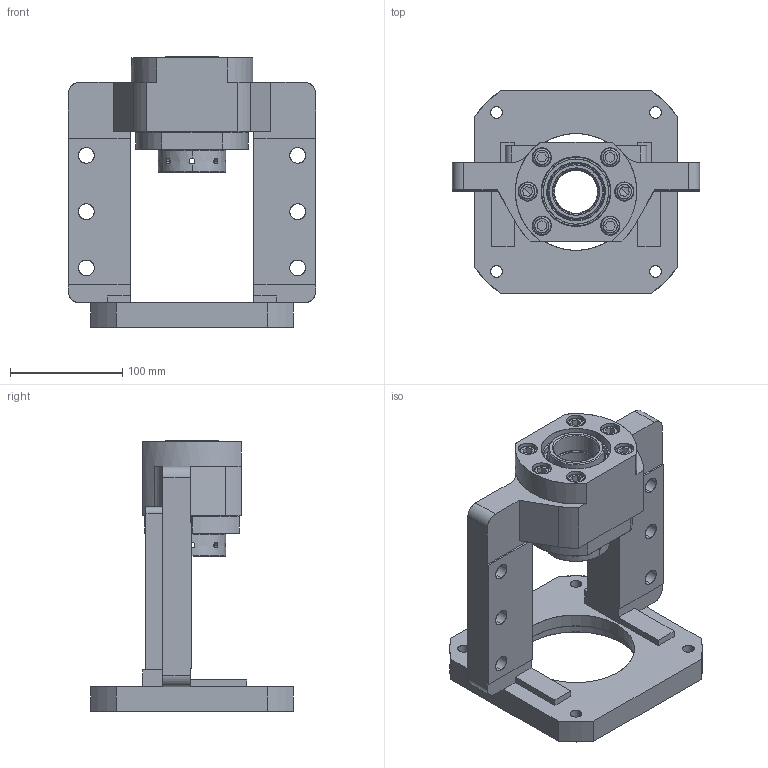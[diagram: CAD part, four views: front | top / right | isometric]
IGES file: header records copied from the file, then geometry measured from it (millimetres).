
Start section: SolidWorks IGES file using analytic representation for surfaces
Bounding box: 220 x 180 x 241 mm (x, y, z)
Surface area: 244544.9 mm2 (no closed solid volume)
Topology: 0 solids, 0 shells, 345 faces, 6640 edges, 6628 vertices
Faces by surface type: revolution 192, bspline 153
